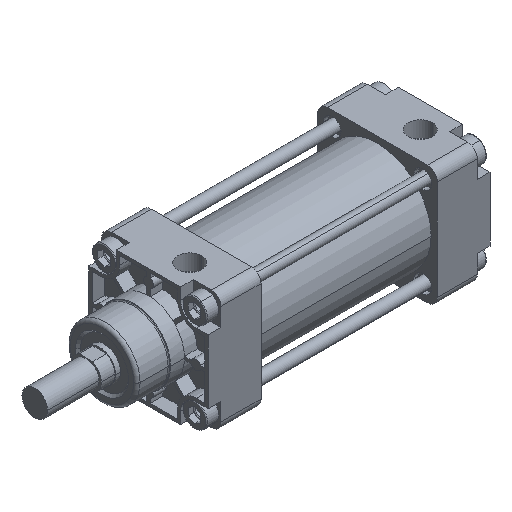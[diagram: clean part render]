
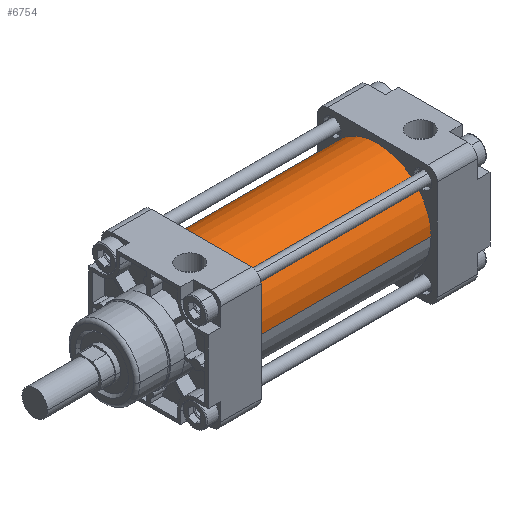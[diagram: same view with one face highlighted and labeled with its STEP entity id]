
A CAD part, isometric view. The second image highlights one B-rep face of the part: STEP entity #6754.
In plain terms, the highlighted cylindrical face has radius 33.5 mm (diameter 67 mm), a partial arc.
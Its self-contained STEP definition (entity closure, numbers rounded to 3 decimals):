
#6391=CARTESIAN_POINT('Vertex',(110.,-33.5,0.)) ;
#6393=CARTESIAN_POINT('Vertex',(110.,33.5,0.)) ;
#6396=CARTESIAN_POINT('Axis2P3D Location',(110.,0.,0.)) ;
#6724=CARTESIAN_POINT('Axis2P3D Location',(55.,0.,0.)) ;
#6729=CARTESIAN_POINT('Line Origine',(55.,33.5,0.)) ;
#6733=CARTESIAN_POINT('Vertex',(0.,33.5,0.)) ;
#6736=CARTESIAN_POINT('Axis2P3D Location',(0.,0.,0.)) ;
#6740=CARTESIAN_POINT('Vertex',(0.,-33.5,0.)) ;
#6743=CARTESIAN_POINT('Line Origine',(55.,-33.5,0.)) ;
#6397=DIRECTION('Axis2P3D Direction',(1.,0.,0.)) ;
#6725=DIRECTION('Axis2P3D Direction',(1.,0.,0.)) ;
#6726=DIRECTION('Axis2P3D XDirection',(0.,1.,0.)) ;
#6730=DIRECTION('Vector Direction',(1.,0.,0.)) ;
#6737=DIRECTION('Axis2P3D Direction',(1.,0.,0.)) ;
#6744=DIRECTION('Vector Direction',(1.,0.,0.)) ;
#6398=AXIS2_PLACEMENT_3D('Circle Axis2P3D',#6396,#6397,$) ;
#6727=AXIS2_PLACEMENT_3D('Cylinder Axis2P3D',#6724,#6725,#6726) ;
#6738=AXIS2_PLACEMENT_3D('Circle Axis2P3D',#6736,#6737,$) ;
#6749=ORIENTED_EDGE('',*,*,#6735,.F.) ;
#6750=ORIENTED_EDGE('',*,*,#6742,.T.) ;
#6751=ORIENTED_EDGE('',*,*,#6747,.T.) ;
#6752=ORIENTED_EDGE('',*,*,#6400,.F.) ;
#6731=VECTOR('Line Direction',#6730,1.) ;
#6745=VECTOR('Line Direction',#6744,1.) ;
#6754=ADVANCED_FACE('PartBody',(#6753),#6728,.T.) ;
#6399=CIRCLE('generated circle',#6398,33.5) ;
#6739=CIRCLE('generated circle',#6738,33.5) ;
#6728=CYLINDRICAL_SURFACE('generated cylinder',#6727,33.5) ;
#6400=EDGE_CURVE('',#6394,#6392,#6399,.T.) ;
#6735=EDGE_CURVE('',#6734,#6394,#6732,.T.) ;
#6742=EDGE_CURVE('',#6734,#6741,#6739,.T.) ;
#6747=EDGE_CURVE('',#6741,#6392,#6746,.T.) ;
#6748=EDGE_LOOP('',(#6749,#6750,#6751,#6752)) ;
#6753=FACE_OUTER_BOUND('',#6748,.T.) ;
#6732=LINE('Line',#6729,#6731) ;
#6746=LINE('Line',#6743,#6745) ;
#6392=VERTEX_POINT('',#6391) ;
#6394=VERTEX_POINT('',#6393) ;
#6734=VERTEX_POINT('',#6733) ;
#6741=VERTEX_POINT('',#6740) ;
